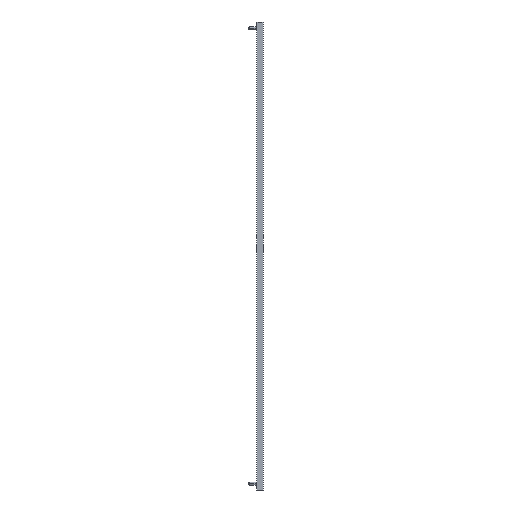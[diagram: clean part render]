
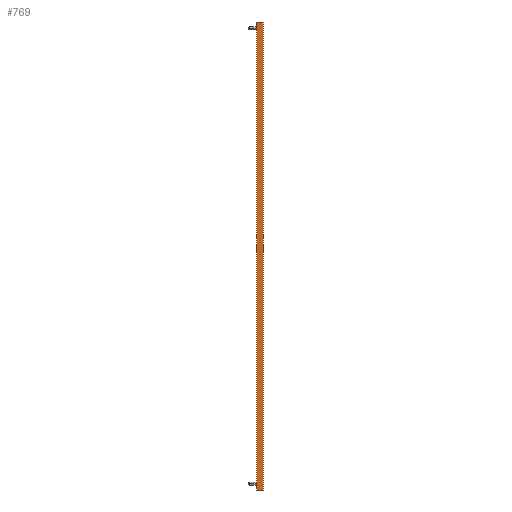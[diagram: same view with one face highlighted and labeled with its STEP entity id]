
A CAD part, left-side view. The second image highlights one B-rep face of the part: STEP entity #769.
In plain terms, the highlighted planar face has unit normal (-1, 0, 0).
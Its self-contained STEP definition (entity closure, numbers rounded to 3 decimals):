
#211 = DIRECTION ( 'NONE',  ( -1., 0., 0. ) ) ;
#213 = ORIENTED_EDGE ( 'NONE', *, *, #2051, .F. ) ;
#231 = EDGE_CURVE ( 'NONE', #1822, #2937, #2475, .T. ) ;
#298 = CARTESIAN_POINT ( 'NONE',  ( -8., 0., 879. ) ) ;
#313 = CARTESIAN_POINT ( 'NONE',  ( -8., 12.5, 0. ) ) ;
#314 = CARTESIAN_POINT ( 'NONE',  ( -8., 3.2, 879. ) ) ;
#593 = VERTEX_POINT ( 'NONE', #314 ) ;
#630 = CARTESIAN_POINT ( 'NONE',  ( -8., 12.5, 879. ) ) ;
#633 = VERTEX_POINT ( 'NONE', #894 ) ;
#676 = VECTOR ( 'NONE', #1951, 1000. ) ;
#685 = VECTOR ( 'NONE', #753, 1000. ) ;
#753 = DIRECTION ( 'NONE',  ( 0., 1., 0. ) ) ;
#769 = ADVANCED_FACE ( 'NONE', ( #2266 ), #1752, .T. ) ;
#851 = ORIENTED_EDGE ( 'NONE', *, *, #2970, .T. ) ;
#886 = CARTESIAN_POINT ( 'NONE',  ( -8., 0., 0. ) ) ;
#894 = CARTESIAN_POINT ( 'NONE',  ( -8., 0., 879. ) ) ;
#914 = VERTEX_POINT ( 'NONE', #2015 ) ;
#916 = CARTESIAN_POINT ( 'NONE',  ( -8., 9.3, 0. ) ) ;
#935 = CARTESIAN_POINT ( 'NONE',  ( -8., 12.5, 879. ) ) ;
#936 = EDGE_CURVE ( 'NONE', #593, #2113, #2534, .T. ) ;
#967 = DIRECTION ( 'NONE',  ( 0., -1., 0. ) ) ;
#985 = DIRECTION ( 'NONE',  ( 0., 0., 1. ) ) ;
#1128 = DIRECTION ( 'NONE',  ( 0., 0., 1. ) ) ;
#1177 = VECTOR ( 'NONE', #1539, 1000. ) ;
#1202 = AXIS2_PLACEMENT_3D ( 'NONE', #1521, #211, #985 ) ;
#1208 = CARTESIAN_POINT ( 'NONE',  ( -8., 0., 879. ) ) ;
#1344 = ORIENTED_EDGE ( 'NONE', *, *, #2359, .T. ) ;
#1373 = LINE ( 'NONE', #886, #2864 ) ;
#1521 = CARTESIAN_POINT ( 'NONE',  ( -8., 0., 879. ) ) ;
#1539 = DIRECTION ( 'NONE',  ( 0., 1., 0. ) ) ;
#1550 = ORIENTED_EDGE ( 'NONE', *, *, #936, .T. ) ;
#1667 = CARTESIAN_POINT ( 'NONE',  ( -8., 0., 0. ) ) ;
#1745 = VECTOR ( 'NONE', #2767, 1000. ) ;
#1752 = PLANE ( 'NONE',  #1202 ) ;
#1770 = VECTOR ( 'NONE', #1128, 1000. ) ;
#1822 = VERTEX_POINT ( 'NONE', #313 ) ;
#1826 = VECTOR ( 'NONE', #967, 1000. ) ;
#1866 = LINE ( 'NONE', #630, #1770 ) ;
#1883 = DIRECTION ( 'NONE',  ( 0., -1., 0. ) ) ;
#1894 = EDGE_LOOP ( 'NONE', ( #2771, #1975, #1344, #851, #3024, #2743, #1550, #213 ) ) ;
#1949 = LINE ( 'NONE', #1208, #1745 ) ;
#1951 = DIRECTION ( 'NONE',  ( 0., -1., 0. ) ) ;
#1967 = LINE ( 'NONE', #3194, #676 ) ;
#1975 = ORIENTED_EDGE ( 'NONE', *, *, #231, .T. ) ;
#1985 = CARTESIAN_POINT ( 'NONE',  ( -8., 0., 879. ) ) ;
#2015 = CARTESIAN_POINT ( 'NONE',  ( -8., 3.2, 0. ) ) ;
#2051 = EDGE_CURVE ( 'NONE', #2380, #2113, #1967, .T. ) ;
#2113 = VERTEX_POINT ( 'NONE', #3210 ) ;
#2165 = DIRECTION ( 'NONE',  ( 0., -1., 0. ) ) ;
#2176 = EDGE_CURVE ( 'NONE', #1822, #2380, #1866, .T. ) ;
#2177 = CARTESIAN_POINT ( 'NONE',  ( -8., 0., 0. ) ) ;
#2266 = FACE_OUTER_BOUND ( 'NONE', #1894, .T. ) ;
#2359 = EDGE_CURVE ( 'NONE', #2937, #914, #2402, .T. ) ;
#2380 = VERTEX_POINT ( 'NONE', #935 ) ;
#2402 = LINE ( 'NONE', #1667, #3185 ) ;
#2475 = LINE ( 'NONE', #2982, #1826 ) ;
#2527 = LINE ( 'NONE', #298, #1177 ) ;
#2534 = LINE ( 'NONE', #1985, #685 ) ;
#2743 = ORIENTED_EDGE ( 'NONE', *, *, #3209, .T. ) ;
#2767 = DIRECTION ( 'NONE',  ( 0., 0., 1. ) ) ;
#2771 = ORIENTED_EDGE ( 'NONE', *, *, #2176, .F. ) ;
#2864 = VECTOR ( 'NONE', #1883, 1000. ) ;
#2937 = VERTEX_POINT ( 'NONE', #916 ) ;
#2953 = VERTEX_POINT ( 'NONE', #2177 ) ;
#2970 = EDGE_CURVE ( 'NONE', #914, #2953, #1373, .T. ) ;
#2982 = CARTESIAN_POINT ( 'NONE',  ( -8., 0., 0. ) ) ;
#3024 = ORIENTED_EDGE ( 'NONE', *, *, #3063, .T. ) ;
#3063 = EDGE_CURVE ( 'NONE', #2953, #633, #1949, .T. ) ;
#3185 = VECTOR ( 'NONE', #2165, 1000. ) ;
#3194 = CARTESIAN_POINT ( 'NONE',  ( -8., 12.5, 879. ) ) ;
#3209 = EDGE_CURVE ( 'NONE', #633, #593, #2527, .T. ) ;
#3210 = CARTESIAN_POINT ( 'NONE',  ( -8., 9.3, 879. ) ) ;
